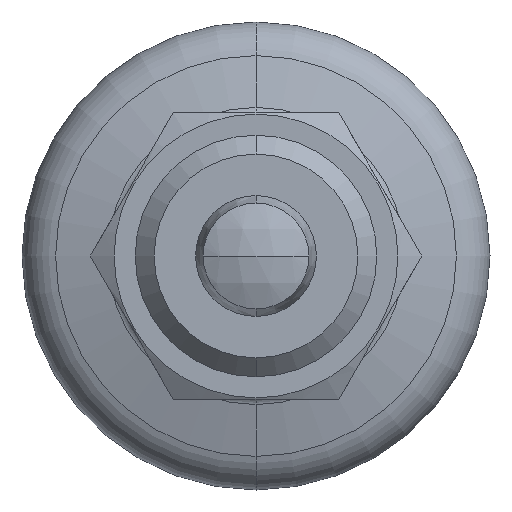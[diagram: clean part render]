
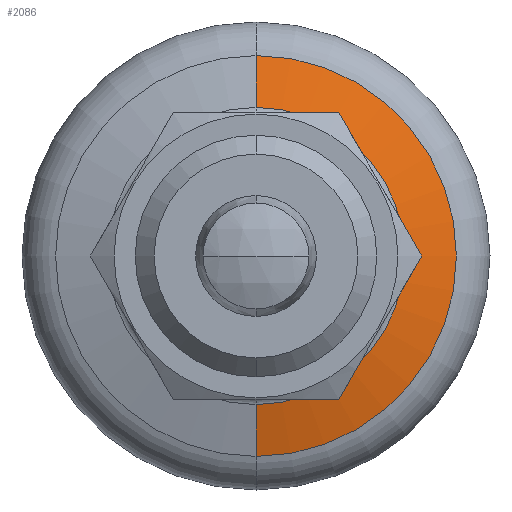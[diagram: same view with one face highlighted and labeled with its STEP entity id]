
A CAD part, front view. The second image highlights one B-rep face of the part: STEP entity #2086.
In plain terms, the highlighted conical face has half-angle 75 degrees and reference radius 9.843 mm.
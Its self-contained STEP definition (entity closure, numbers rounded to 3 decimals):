
#119 = VECTOR ( 'NONE', #2447, 1000. ) ;
#121 = CIRCLE ( 'NONE', #833, 13.276 ) ;
#175 = CARTESIAN_POINT ( 'NONE',  ( 0., 18.484, 0. ) ) ;
#315 = FACE_OUTER_BOUND ( 'NONE', #1309, .T. ) ;
#494 = DIRECTION ( 'NONE',  ( 0., 0., 1. ) ) ;
#545 = EDGE_CURVE ( 'NONE', #2028, #1726, #121, .T. ) ;
#594 = ORIENTED_EDGE ( 'NONE', *, *, #2735, .T. ) ;
#626 = EDGE_CURVE ( 'NONE', #1557, #1726, #2385, .T. ) ;
#692 = CARTESIAN_POINT ( 'NONE',  ( 0., 18.484, -9.843 ) ) ;
#827 = DIRECTION ( 'NONE',  ( 0., 1., 0. ) ) ;
#833 = AXIS2_PLACEMENT_3D ( 'NONE', #1288, #1750, #2149 ) ;
#892 = VERTEX_POINT ( 'NONE', #1863 ) ;
#1012 = VECTOR ( 'NONE', #2419, 1000. ) ;
#1130 = CARTESIAN_POINT ( 'NONE',  ( 0., 19.404, -13.276 ) ) ;
#1136 = DIRECTION ( 'NONE',  ( 0., 1., 0. ) ) ;
#1140 = CONICAL_SURFACE ( 'NONE', #1370, 9.843, 1.309 ) ;
#1152 = ORIENTED_EDGE ( 'NONE', *, *, #2204, .F. ) ;
#1288 = CARTESIAN_POINT ( 'NONE',  ( 0., 19.404, 0. ) ) ;
#1309 = EDGE_LOOP ( 'NONE', ( #594, #2590, #2058, #1152 ) ) ;
#1370 = AXIS2_PLACEMENT_3D ( 'NONE', #2440, #1136, #494 ) ;
#1557 = VERTEX_POINT ( 'NONE', #2096 ) ;
#1592 = LINE ( 'NONE', #1666, #119 ) ;
#1666 = CARTESIAN_POINT ( 'NONE',  ( 0., 18.484, 9.843 ) ) ;
#1726 = VERTEX_POINT ( 'NONE', #1130 ) ;
#1750 = DIRECTION ( 'NONE',  ( 0., 1., 0. ) ) ;
#1863 = CARTESIAN_POINT ( 'NONE',  ( 0., 18.484, 9.843 ) ) ;
#1929 = CARTESIAN_POINT ( 'NONE',  ( 0., 19.404, 13.276 ) ) ;
#2028 = VERTEX_POINT ( 'NONE', #1929 ) ;
#2058 = ORIENTED_EDGE ( 'NONE', *, *, #545, .F. ) ;
#2086 = ADVANCED_FACE ( 'NONE', ( #315 ), #1140, .T. ) ;
#2096 = CARTESIAN_POINT ( 'NONE',  ( 0., 18.484, -9.843 ) ) ;
#2125 = DIRECTION ( 'NONE',  ( 0., 0., 1. ) ) ;
#2149 = DIRECTION ( 'NONE',  ( 0., 0., 1. ) ) ;
#2192 = AXIS2_PLACEMENT_3D ( 'NONE', #175, #827, #2125 ) ;
#2204 = EDGE_CURVE ( 'NONE', #892, #2028, #1592, .T. ) ;
#2385 = LINE ( 'NONE', #692, #1012 ) ;
#2419 = DIRECTION ( 'NONE',  ( 0., 0.259, -0.966 ) ) ;
#2440 = CARTESIAN_POINT ( 'NONE',  ( 0., 18.484, 0. ) ) ;
#2447 = DIRECTION ( 'NONE',  ( 0., 0.259, 0.966 ) ) ;
#2553 = CIRCLE ( 'NONE', #2192, 9.843 ) ;
#2590 = ORIENTED_EDGE ( 'NONE', *, *, #626, .T. ) ;
#2735 = EDGE_CURVE ( 'NONE', #892, #1557, #2553, .T. ) ;
